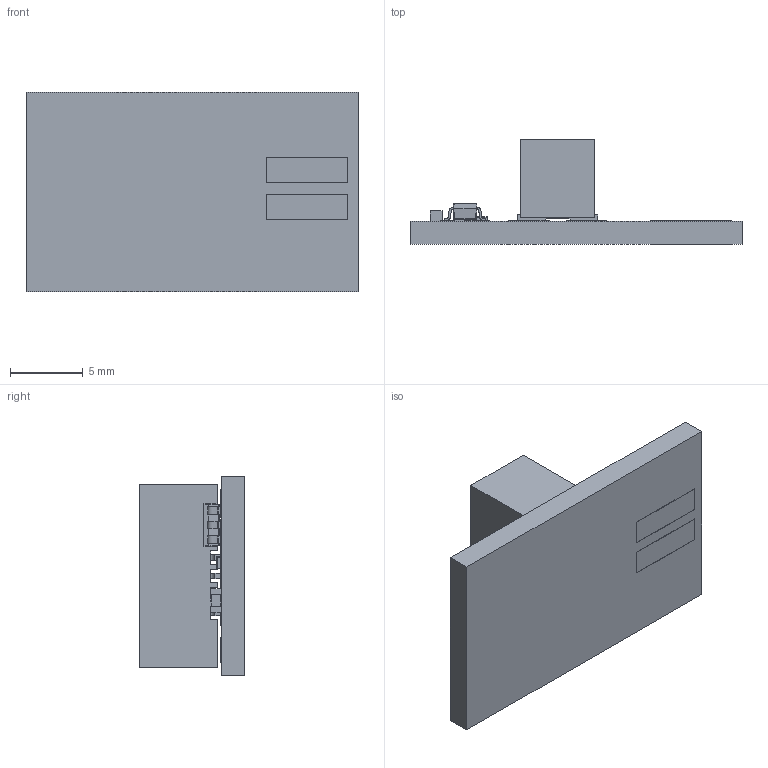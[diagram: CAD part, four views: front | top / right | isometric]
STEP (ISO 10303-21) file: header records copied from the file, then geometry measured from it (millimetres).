
FILE_DESCRIPTION (( 'STEP AP214' ), '1' );
FILE_NAME ('Talon_SRX_Analog_Breakout_15-656679.STEP', '2017-08-16T18:49:32', ( 'ART' ), ( 'Microsoft' ), 'SwSTEP 2.0', 'SolidWorks 2015', '' );
FILE_SCHEMA (( 'AUTOMOTIVE_DESIGN' ));
Length unit declared in the file: inch
Products named in the file (1): Talon_SRX_Analog_Breakout_15-656679
Bounding box: 22.83 x 7.24 x 13.72 mm (x, y, z)
Surface area: 1622.4 mm2 (no closed solid volume)
Topology: 0 solids, 94 shells, 645 faces, 1513 edges, 1042 vertices
Faces by surface type: plane 558, cylinder 52, bspline 27, sphere 8
Entity records: 28814 total; most frequent: CARTESIAN_POINT 5192, ORIENTED_EDGE 2850, DIRECTION 2827, EDGE_CURVE 1505, VECTOR 1309, LINE 1309, VERTEX_POINT 1042, AXIS2_PLACEMENT_3D 759
